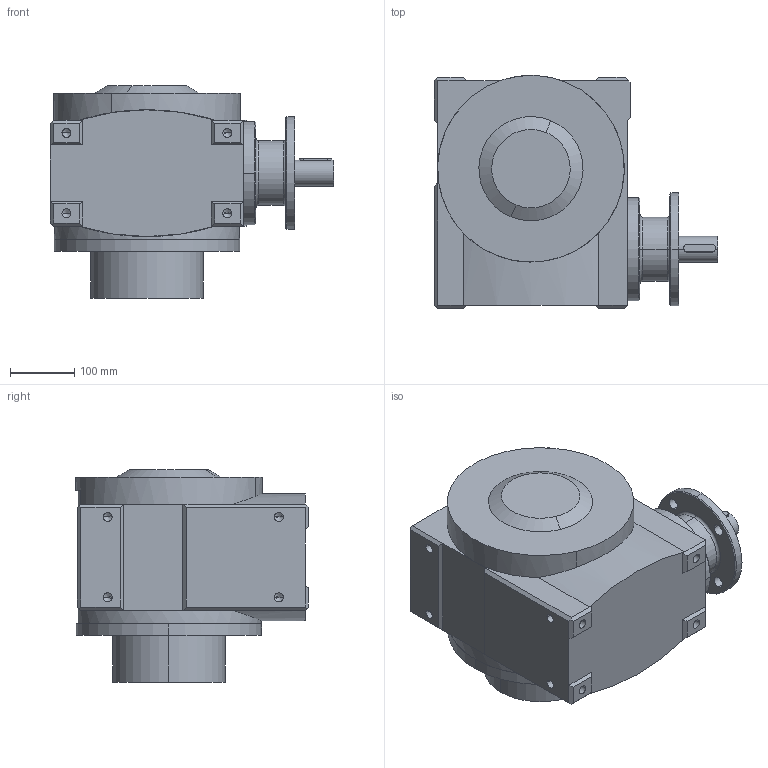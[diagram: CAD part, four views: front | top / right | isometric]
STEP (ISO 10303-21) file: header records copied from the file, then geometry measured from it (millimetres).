
FILE_DESCRIPTION(('Creo Elements/Direct Modeling STEP Export'),'2;1');
FILE_NAME('2SP786_F14-F14.stp','2019-07-19T17:07:00',(''),(''),'Creo Elements/Direct Modeling STEP processor for AP214 (Solid Model)','Creo Elements/Direct Modeling 20.0C 26-Jan-2018 (C) Parametric Technology GmbH','');
FILE_SCHEMA(('AUTOMOTIVE_DESIGN { 1 0 10303 214 1 1 1 1 }'));
Length unit declared in the file: millimetre
Products named in the file (3): Output-Flange-F14; Gear-2SP786_2SP787-F14; 2SP786_F14-F14
Assembly tree (2 placements, depth 2):
  2SP786_F14-F14
    Gear-2SP786_2SP787-F14
    Output-Flange-F14
Bounding box: 440 x 362 x 330.5 mm (x, y, z)
Volume: 26131968.8 mm3; surface area: 782506.3 mm2
Topology: 2 solids, 2 shells, 258 faces, 611 edges, 343 vertices
Faces by surface type: cylinder 131, plane 69, cone 54, torus 4
Entity records: 7494 total; most frequent: CARTESIAN_POINT 1903, ORIENTED_EDGE 1126, DIRECTION 961, EDGE_CURVE 563, VERTEX_POINT 343, AXIS2_PLACEMENT_3D 326, VECTOR 309, LINE 309
